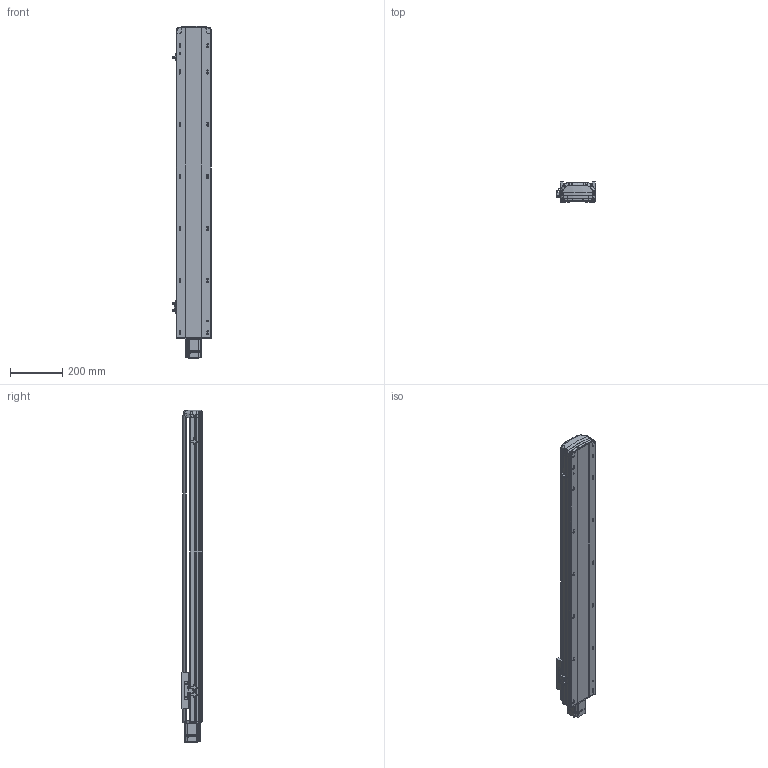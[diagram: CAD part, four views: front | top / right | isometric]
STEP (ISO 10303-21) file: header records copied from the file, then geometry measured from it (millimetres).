
FILE_DESCRIPTION (( 'STEP AP214' ), '1' );
FILE_NAME ('RTH14-XX-950-E-M20-C4.STEP', '2025-10-24T09:14:40', ( 'Microsoft' ), ( 'Microsoft' ), 'SwSTEP 2.0', 'SolidWorks 2018', '' );
FILE_SCHEMA (( 'AUTOMOTIVE_DESIGN' ));
Length unit declared in the file: millimetre
Products named in the file (9): N_RTH14-E-011P菁釱^RTH14-XX-XX-E-M20-C4; N_RTH13-E-008萇儂耜猾裔^RTH14-XX-XX-E-M20-C4; N_RTH13-L-012感应片（外置）^RTH14-XX-XX-E-M20-C4; N_RTH14-R-004-SFSR16賑釱^RTH14-XX-XX-E-M20-C4; N_MSMD022P1AA_200W^RTH14-XX-XX-E-M20-C4; RTH14-XX-950-E-M20-C4; N_OMRON EE-SX672 传感器^RTH14-XX-XX-E-M20-C4; N_RTH14-E-007P奻裔^RTH14-XX-XX-E-M20-C4; N_RTH14-GY-001P^RTH14-XX-XX-E-M20-C4
Assembly tree (10 placements, depth 2):
  RTH14-XX-950-E-M20-C4
    N_RTH14-E-011P菁釱^RTH14-XX-XX-E-M20-C4
    N_RTH14-E-007P奻裔^RTH14-XX-XX-E-M20-C4
    N_MSMD022P1AA_200W^RTH14-XX-XX-E-M20-C4
    N_RTH13-L-012感应片（外置）^RTH14-XX-XX-E-M20-C4
    N_OMRON EE-SX672 传感器^RTH14-XX-XX-E-M20-C4  x3
    N_RTH13-E-008萇儂耜猾裔^RTH14-XX-XX-E-M20-C4
    N_RTH14-R-004-SFSR16賑釱^RTH14-XX-XX-E-M20-C4
    N_RTH14-GY-001P^RTH14-XX-XX-E-M20-C4
Bounding box: 148.5 x 78.03 x 1272.49 mm (x, y, z)
Volume: 5175995.2 mm3; surface area: 1141513.9 mm2
Topology: 10 solids, 10 shells, 1895 faces, 5338 edges, 3508 vertices
Faces by surface type: plane 981, cylinder 524, bspline 341, cone 45, torus 4
Entity records: 58292 total; most frequent: CARTESIAN_POINT 23120, ORIENTED_EDGE 7744, DIRECTION 6299, EDGE_CURVE 3872, VERTEX_POINT 2544, LINE 2195, VECTOR 2195, AXIS2_PLACEMENT_3D 2052
